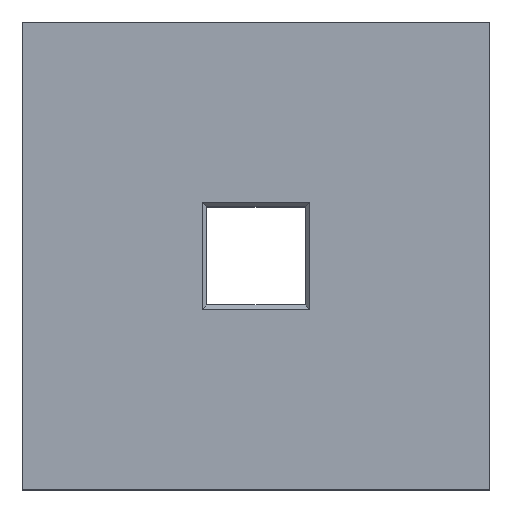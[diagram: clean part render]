
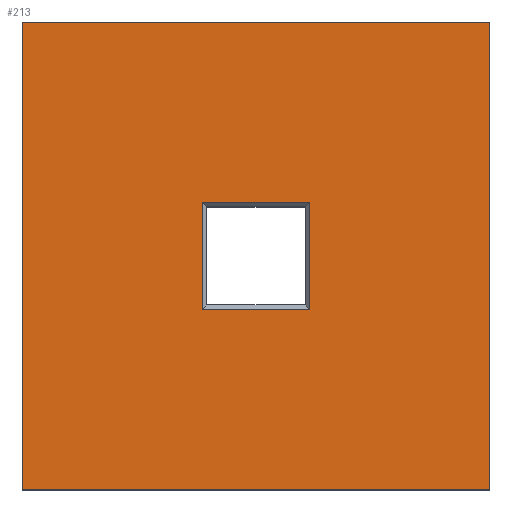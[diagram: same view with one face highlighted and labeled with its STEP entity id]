
A CAD part, top view. The second image highlights one B-rep face of the part: STEP entity #213.
In plain terms, the highlighted planar face has unit normal (0, 0, 1).
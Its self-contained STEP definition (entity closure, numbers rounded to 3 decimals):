
#24 = VERTEX_POINT('',#25);
#25 = CARTESIAN_POINT('',(-50.,-50.,30.));
#32 = PLANE('',#33);
#33 = AXIS2_PLACEMENT_3D('',#34,#35,#36);
#34 = CARTESIAN_POINT('',(-50.,-50.,0.));
#35 = DIRECTION('',(1.,0.,0.));
#36 = DIRECTION('',(0.,0.,1.));
#44 = PLANE('',#45);
#45 = AXIS2_PLACEMENT_3D('',#46,#47,#48);
#46 = CARTESIAN_POINT('',(-50.,-50.,0.));
#47 = DIRECTION('',(0.,1.,0.));
#48 = DIRECTION('',(0.,0.,1.));
#85 = VERTEX_POINT('',#86);
#86 = CARTESIAN_POINT('',(-50.,50.,30.));
#100 = PLANE('',#101);
#101 = AXIS2_PLACEMENT_3D('',#102,#103,#104);
#102 = CARTESIAN_POINT('',(-50.,50.,0.));
#103 = DIRECTION('',(0.,1.,0.));
#104 = DIRECTION('',(0.,0.,1.));
#112 = EDGE_CURVE('',#24,#85,#113,.T.);
#113 = SURFACE_CURVE('',#114,(#118,#125),.PCURVE_S1.);
#114 = LINE('',#115,#116);
#115 = CARTESIAN_POINT('',(-50.,-50.,30.));
#116 = VECTOR('',#117,1.);
#117 = DIRECTION('',(0.,1.,0.));
#118 = PCURVE('',#32,#119);
#119 = DEFINITIONAL_REPRESENTATION('',(#120),#124);
#120 = LINE('',#121,#122);
#121 = CARTESIAN_POINT('',(30.,0.));
#122 = VECTOR('',#123,1.);
#123 = DIRECTION('',(0.,-1.));
#124 = ( GEOMETRIC_REPRESENTATION_CONTEXT(2) 
PARAMETRIC_REPRESENTATION_CONTEXT() REPRESENTATION_CONTEXT('2D SPACE',''
  ) );
#125 = PCURVE('',#126,#131);
#126 = PLANE('',#127);
#127 = AXIS2_PLACEMENT_3D('',#128,#129,#130);
#128 = CARTESIAN_POINT('',(-50.,-50.,30.));
#129 = DIRECTION('',(0.,0.,1.));
#130 = DIRECTION('',(1.,0.,0.));
#131 = DEFINITIONAL_REPRESENTATION('',(#132),#136);
#132 = LINE('',#133,#134);
#133 = CARTESIAN_POINT('',(0.,0.));
#134 = VECTOR('',#135,1.);
#135 = DIRECTION('',(0.,1.));
#136 = ( GEOMETRIC_REPRESENTATION_CONTEXT(2) 
PARAMETRIC_REPRESENTATION_CONTEXT() REPRESENTATION_CONTEXT('2D SPACE',''
  ) );
#165 = EDGE_CURVE('',#24,#166,#168,.T.);
#166 = VERTEX_POINT('',#167);
#167 = CARTESIAN_POINT('',(50.,-50.,30.));
#168 = SURFACE_CURVE('',#169,(#173,#180),.PCURVE_S1.);
#169 = LINE('',#170,#171);
#170 = CARTESIAN_POINT('',(-50.,-50.,30.));
#171 = VECTOR('',#172,1.);
#172 = DIRECTION('',(1.,0.,0.));
#173 = PCURVE('',#44,#174);
#174 = DEFINITIONAL_REPRESENTATION('',(#175),#179);
#175 = LINE('',#176,#177);
#176 = CARTESIAN_POINT('',(30.,0.));
#177 = VECTOR('',#178,1.);
#178 = DIRECTION('',(0.,1.));
#179 = ( GEOMETRIC_REPRESENTATION_CONTEXT(2) 
PARAMETRIC_REPRESENTATION_CONTEXT() REPRESENTATION_CONTEXT('2D SPACE',''
  ) );
#180 = PCURVE('',#126,#181);
#181 = DEFINITIONAL_REPRESENTATION('',(#182),#186);
#182 = LINE('',#183,#184);
#183 = CARTESIAN_POINT('',(0.,0.));
#184 = VECTOR('',#185,1.);
#185 = DIRECTION('',(1.,0.));
#186 = ( GEOMETRIC_REPRESENTATION_CONTEXT(2) 
PARAMETRIC_REPRESENTATION_CONTEXT() REPRESENTATION_CONTEXT('2D SPACE',''
  ) );
#202 = PLANE('',#203);
#203 = AXIS2_PLACEMENT_3D('',#204,#205,#206);
#204 = CARTESIAN_POINT('',(50.,-50.,0.));
#205 = DIRECTION('',(1.,0.,0.));
#206 = DIRECTION('',(0.,0.,1.));
#213 = ADVANCED_FACE('',(#214,#262),#126,.T.);
#214 = FACE_BOUND('',#215,.T.);
#215 = EDGE_LOOP('',(#216,#217,#218,#241));
#216 = ORIENTED_EDGE('',*,*,#112,.F.);
#217 = ORIENTED_EDGE('',*,*,#165,.T.);
#218 = ORIENTED_EDGE('',*,*,#219,.T.);
#219 = EDGE_CURVE('',#166,#220,#222,.T.);
#220 = VERTEX_POINT('',#221);
#221 = CARTESIAN_POINT('',(50.,50.,30.));
#222 = SURFACE_CURVE('',#223,(#227,#234),.PCURVE_S1.);
#223 = LINE('',#224,#225);
#224 = CARTESIAN_POINT('',(50.,-50.,30.));
#225 = VECTOR('',#226,1.);
#226 = DIRECTION('',(0.,1.,0.));
#227 = PCURVE('',#126,#228);
#228 = DEFINITIONAL_REPRESENTATION('',(#229),#233);
#229 = LINE('',#230,#231);
#230 = CARTESIAN_POINT('',(100.,0.));
#231 = VECTOR('',#232,1.);
#232 = DIRECTION('',(0.,1.));
#233 = ( GEOMETRIC_REPRESENTATION_CONTEXT(2) 
PARAMETRIC_REPRESENTATION_CONTEXT() REPRESENTATION_CONTEXT('2D SPACE',''
  ) );
#234 = PCURVE('',#202,#235);
#235 = DEFINITIONAL_REPRESENTATION('',(#236),#240);
#236 = LINE('',#237,#238);
#237 = CARTESIAN_POINT('',(30.,0.));
#238 = VECTOR('',#239,1.);
#239 = DIRECTION('',(0.,-1.));
#240 = ( GEOMETRIC_REPRESENTATION_CONTEXT(2) 
PARAMETRIC_REPRESENTATION_CONTEXT() REPRESENTATION_CONTEXT('2D SPACE',''
  ) );
#241 = ORIENTED_EDGE('',*,*,#242,.F.);
#242 = EDGE_CURVE('',#85,#220,#243,.T.);
#243 = SURFACE_CURVE('',#244,(#248,#255),.PCURVE_S1.);
#244 = LINE('',#245,#246);
#245 = CARTESIAN_POINT('',(-50.,50.,30.));
#246 = VECTOR('',#247,1.);
#247 = DIRECTION('',(1.,0.,0.));
#248 = PCURVE('',#126,#249);
#249 = DEFINITIONAL_REPRESENTATION('',(#250),#254);
#250 = LINE('',#251,#252);
#251 = CARTESIAN_POINT('',(0.,100.));
#252 = VECTOR('',#253,1.);
#253 = DIRECTION('',(1.,0.));
#254 = ( GEOMETRIC_REPRESENTATION_CONTEXT(2) 
PARAMETRIC_REPRESENTATION_CONTEXT() REPRESENTATION_CONTEXT('2D SPACE',''
  ) );
#255 = PCURVE('',#100,#256);
#256 = DEFINITIONAL_REPRESENTATION('',(#257),#261);
#257 = LINE('',#258,#259);
#258 = CARTESIAN_POINT('',(30.,0.));
#259 = VECTOR('',#260,1.);
#260 = DIRECTION('',(0.,1.));
#261 = ( GEOMETRIC_REPRESENTATION_CONTEXT(2) 
PARAMETRIC_REPRESENTATION_CONTEXT() REPRESENTATION_CONTEXT('2D SPACE',''
  ) );
#262 = FACE_BOUND('',#263,.T.);
#263 = EDGE_LOOP('',(#264,#294,#322,#350));
#264 = ORIENTED_EDGE('',*,*,#265,.F.);
#265 = EDGE_CURVE('',#266,#268,#270,.T.);
#266 = VERTEX_POINT('',#267);
#267 = CARTESIAN_POINT('',(-11.5,-11.5,30.));
#268 = VERTEX_POINT('',#269);
#269 = CARTESIAN_POINT('',(11.5,-11.5,30.));
#270 = SURFACE_CURVE('',#271,(#275,#282),.PCURVE_S1.);
#271 = LINE('',#272,#273);
#272 = CARTESIAN_POINT('',(-11.5,-11.5,30.));
#273 = VECTOR('',#274,1.);
#274 = DIRECTION('',(1.,0.,0.));
#275 = PCURVE('',#126,#276);
#276 = DEFINITIONAL_REPRESENTATION('',(#277),#281);
#277 = LINE('',#278,#279);
#278 = CARTESIAN_POINT('',(38.5,38.5));
#279 = VECTOR('',#280,1.);
#280 = DIRECTION('',(1.,0.));
#281 = ( GEOMETRIC_REPRESENTATION_CONTEXT(2) 
PARAMETRIC_REPRESENTATION_CONTEXT() REPRESENTATION_CONTEXT('2D SPACE',''
  ) );
#282 = PCURVE('',#283,#288);
#283 = B_SPLINE_SURFACE_WITH_KNOTS('',1,1,(
    (#284,#285)
    ,(#286,#287
  )),.UNSPECIFIED.,.F.,.F.,.F.,(2,2),(2,2),(0.,23.),(0.,1.),
  .PIECEWISE_BEZIER_KNOTS.);
#284 = CARTESIAN_POINT('',(-10.5,-10.5,29.));
#285 = CARTESIAN_POINT('',(-11.5,-11.5,30.));
#286 = CARTESIAN_POINT('',(10.5,-10.5,29.));
#287 = CARTESIAN_POINT('',(11.5,-11.5,30.));
#288 = DEFINITIONAL_REPRESENTATION('',(#289),#293);
#289 = LINE('',#290,#291);
#290 = CARTESIAN_POINT('',(0.,1.));
#291 = VECTOR('',#292,1.);
#292 = DIRECTION('',(1.,0.));
#293 = ( GEOMETRIC_REPRESENTATION_CONTEXT(2) 
PARAMETRIC_REPRESENTATION_CONTEXT() REPRESENTATION_CONTEXT('2D SPACE',''
  ) );
#294 = ORIENTED_EDGE('',*,*,#295,.F.);
#295 = EDGE_CURVE('',#296,#266,#298,.T.);
#296 = VERTEX_POINT('',#297);
#297 = CARTESIAN_POINT('',(-11.5,11.5,30.));
#298 = SURFACE_CURVE('',#299,(#303,#310),.PCURVE_S1.);
#299 = LINE('',#300,#301);
#300 = CARTESIAN_POINT('',(-11.5,11.5,30.));
#301 = VECTOR('',#302,1.);
#302 = DIRECTION('',(0.,-1.,0.));
#303 = PCURVE('',#126,#304);
#304 = DEFINITIONAL_REPRESENTATION('',(#305),#309);
#305 = LINE('',#306,#307);
#306 = CARTESIAN_POINT('',(38.5,61.5));
#307 = VECTOR('',#308,1.);
#308 = DIRECTION('',(0.,-1.));
#309 = ( GEOMETRIC_REPRESENTATION_CONTEXT(2) 
PARAMETRIC_REPRESENTATION_CONTEXT() REPRESENTATION_CONTEXT('2D SPACE',''
  ) );
#310 = PCURVE('',#311,#316);
#311 = B_SPLINE_SURFACE_WITH_KNOTS('',1,1,(
    (#312,#313)
    ,(#314,#315
  )),.UNSPECIFIED.,.F.,.F.,.F.,(2,2),(2,2),(0.,23.),(0.,1.),
  .PIECEWISE_BEZIER_KNOTS.);
#312 = CARTESIAN_POINT('',(-10.5,10.5,29.));
#313 = CARTESIAN_POINT('',(-11.5,11.5,30.));
#314 = CARTESIAN_POINT('',(-10.5,-10.5,29.));
#315 = CARTESIAN_POINT('',(-11.5,-11.5,30.));
#316 = DEFINITIONAL_REPRESENTATION('',(#317),#321);
#317 = LINE('',#318,#319);
#318 = CARTESIAN_POINT('',(0.,1.));
#319 = VECTOR('',#320,1.);
#320 = DIRECTION('',(1.,0.));
#321 = ( GEOMETRIC_REPRESENTATION_CONTEXT(2) 
PARAMETRIC_REPRESENTATION_CONTEXT() REPRESENTATION_CONTEXT('2D SPACE',''
  ) );
#322 = ORIENTED_EDGE('',*,*,#323,.F.);
#323 = EDGE_CURVE('',#324,#296,#326,.T.);
#324 = VERTEX_POINT('',#325);
#325 = CARTESIAN_POINT('',(11.5,11.5,30.));
#326 = SURFACE_CURVE('',#327,(#331,#338),.PCURVE_S1.);
#327 = LINE('',#328,#329);
#328 = CARTESIAN_POINT('',(11.5,11.5,30.));
#329 = VECTOR('',#330,1.);
#330 = DIRECTION('',(-1.,0.,0.));
#331 = PCURVE('',#126,#332);
#332 = DEFINITIONAL_REPRESENTATION('',(#333),#337);
#333 = LINE('',#334,#335);
#334 = CARTESIAN_POINT('',(61.5,61.5));
#335 = VECTOR('',#336,1.);
#336 = DIRECTION('',(-1.,0.));
#337 = ( GEOMETRIC_REPRESENTATION_CONTEXT(2) 
PARAMETRIC_REPRESENTATION_CONTEXT() REPRESENTATION_CONTEXT('2D SPACE',''
  ) );
#338 = PCURVE('',#339,#344);
#339 = B_SPLINE_SURFACE_WITH_KNOTS('',1,1,(
    (#340,#341)
    ,(#342,#343
  )),.UNSPECIFIED.,.F.,.F.,.F.,(2,2),(2,2),(0.,23.),(0.,1.),
  .PIECEWISE_BEZIER_KNOTS.);
#340 = CARTESIAN_POINT('',(10.5,10.5,29.));
#341 = CARTESIAN_POINT('',(11.5,11.5,30.));
#342 = CARTESIAN_POINT('',(-10.5,10.5,29.));
#343 = CARTESIAN_POINT('',(-11.5,11.5,30.));
#344 = DEFINITIONAL_REPRESENTATION('',(#345),#349);
#345 = LINE('',#346,#347);
#346 = CARTESIAN_POINT('',(0.,1.));
#347 = VECTOR('',#348,1.);
#348 = DIRECTION('',(1.,0.));
#349 = ( GEOMETRIC_REPRESENTATION_CONTEXT(2) 
PARAMETRIC_REPRESENTATION_CONTEXT() REPRESENTATION_CONTEXT('2D SPACE',''
  ) );
#350 = ORIENTED_EDGE('',*,*,#351,.F.);
#351 = EDGE_CURVE('',#268,#324,#352,.T.);
#352 = SURFACE_CURVE('',#353,(#357,#364),.PCURVE_S1.);
#353 = LINE('',#354,#355);
#354 = CARTESIAN_POINT('',(11.5,-11.5,30.));
#355 = VECTOR('',#356,1.);
#356 = DIRECTION('',(0.,1.,0.));
#357 = PCURVE('',#126,#358);
#358 = DEFINITIONAL_REPRESENTATION('',(#359),#363);
#359 = LINE('',#360,#361);
#360 = CARTESIAN_POINT('',(61.5,38.5));
#361 = VECTOR('',#362,1.);
#362 = DIRECTION('',(0.,1.));
#363 = ( GEOMETRIC_REPRESENTATION_CONTEXT(2) 
PARAMETRIC_REPRESENTATION_CONTEXT() REPRESENTATION_CONTEXT('2D SPACE',''
  ) );
#364 = PCURVE('',#365,#370);
#365 = B_SPLINE_SURFACE_WITH_KNOTS('',1,1,(
    (#366,#367)
    ,(#368,#369
  )),.UNSPECIFIED.,.F.,.F.,.F.,(2,2),(2,2),(0.,23.),(0.,1.),
  .PIECEWISE_BEZIER_KNOTS.);
#366 = CARTESIAN_POINT('',(10.5,-10.5,29.));
#367 = CARTESIAN_POINT('',(11.5,-11.5,30.));
#368 = CARTESIAN_POINT('',(10.5,10.5,29.));
#369 = CARTESIAN_POINT('',(11.5,11.5,30.));
#370 = DEFINITIONAL_REPRESENTATION('',(#371),#375);
#371 = LINE('',#372,#373);
#372 = CARTESIAN_POINT('',(0.,1.));
#373 = VECTOR('',#374,1.);
#374 = DIRECTION('',(1.,0.));
#375 = ( GEOMETRIC_REPRESENTATION_CONTEXT(2) 
PARAMETRIC_REPRESENTATION_CONTEXT() REPRESENTATION_CONTEXT('2D SPACE',''
  ) );
